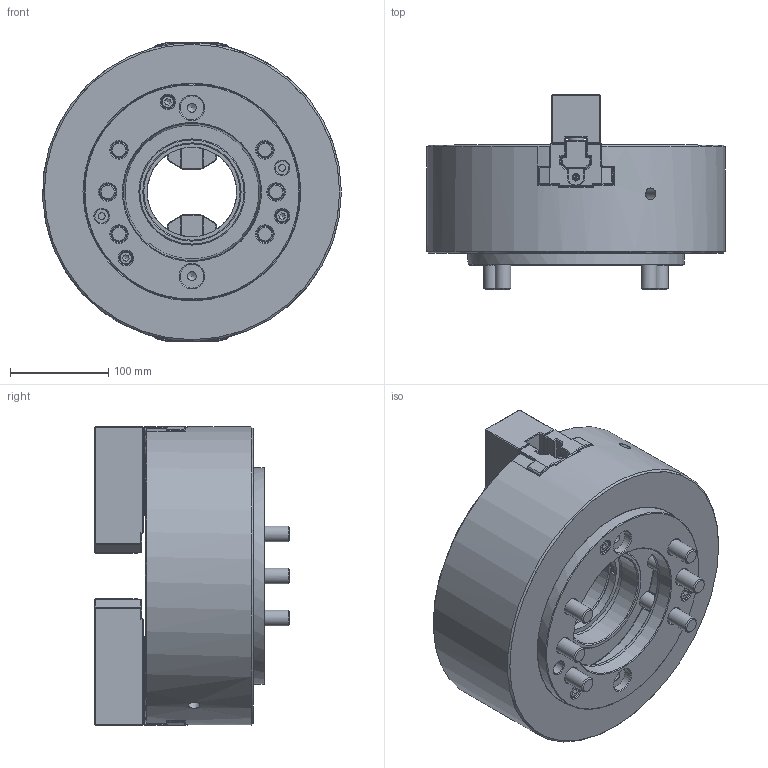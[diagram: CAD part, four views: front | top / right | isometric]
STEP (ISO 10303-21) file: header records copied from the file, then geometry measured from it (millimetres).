
FILE_DESCRIPTION(/* description */ (''),/* implementation_level */ '2;1');
FILE_NAME(/* name */ 'C:\Users\034\Desktop\需重新取代\OPT-212-A8.stp',/* time_stamp */ '2024-09-04T16:34:07+08:00',/* author */ ('034'),/* organization */ (''),/* preprocessor_version */ 'ST-DEVELOPER v16.13',/* originating_system */ 'Autodesk Inventor 2018',/* authorisation */ '');
FILE_SCHEMA (('AUTOMOTIVE_DESIGN { 1 0 10303 214 3 1 1 }'));
Products named in the file (1): OPT-212-A8
Bounding box: 303.87 x 198.19 x 304.56 mm (x, y, z)
Volume: 7568525.5 mm3; surface area: 551784.5 mm2
Topology: 1 solids, 23 shells, 4856 faces, 15605 edges, 9972 vertices
Faces by surface type: plane 2986, cylinder 1219, bspline 404, cone 188, torus 57, sphere 2
Full cylindrical faces by diameter (mm): 3.8 x8, 4 x4, 5.1 x4, 5.2 x2, 6 x6, 6.5 x4, 6.8 x2, 8 x3, 9 x3, 10.3 x6, 10.5 x4, 11 x4, 12 x2, 13 x3, 14 x5, 14.1 x4, 16 x16, 17 x16, 24 x10, 24.2 x2, 25 x6, 26 x4, 91 x1, 91.2 x1, 94.5 x1, 95.9 x1, 96.2 x1, 98 x1, 101 x1, 108 x1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
Entity records: 171180 total; most frequent: CARTESIAN_POINT 35913, ORIENTED_EDGE 30316, DIRECTION 25872, EDGE_CURVE 15158, LINE 11276, VECTOR 11276, VERTEX_POINT 9834, AXIS2_PLACEMENT_3D 7298
